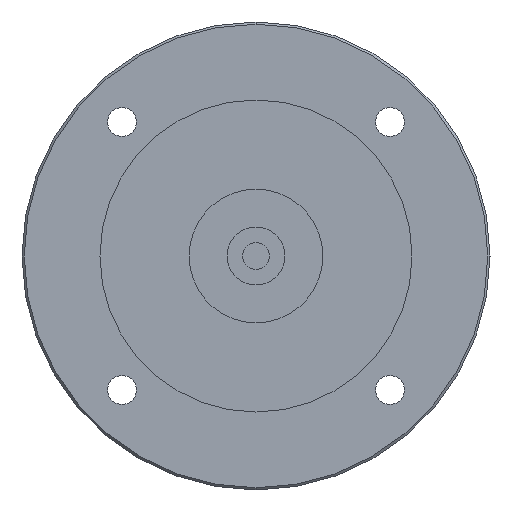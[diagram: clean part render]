
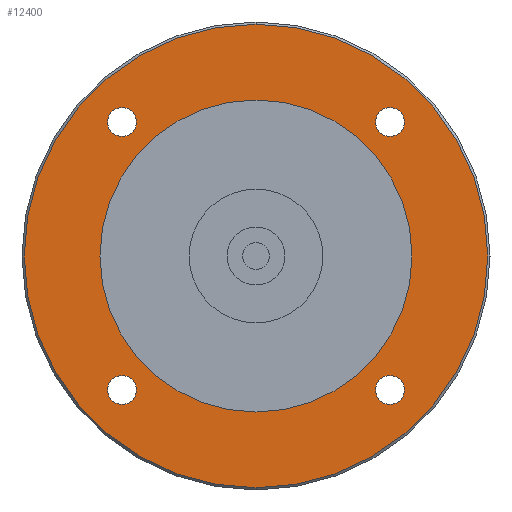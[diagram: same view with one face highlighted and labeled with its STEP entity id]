
A CAD part, left-side view. The second image highlights one B-rep face of the part: STEP entity #12400.
In plain terms, the highlighted planar face has unit normal (-1, 0, 0) as drawn and (0, 0, -1) by its records, which use the part's own axes.
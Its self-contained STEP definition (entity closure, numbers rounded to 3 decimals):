
#11100=CARTESIAN_POINT('',(0.,-35.,-35.5));
#11110=VERTEX_POINT('',#11100);
#11140=CARTESIAN_POINT('',(0.,0.,
-35.5));
#11150=DIRECTION('',(0.,0.,1.));
#11160=DIRECTION('',(1.,0.,0.));
#11170=AXIS2_PLACEMENT_3D('',#11140,#11150,#11160);
#11180=CIRCLE('',#11170,35.);
#11190=CARTESIAN_POINT('',(35.,0.,-35.5));
#11200=VERTEX_POINT('',#11190);
#11210=EDGE_CURVE('',#11110,#11200,#11180,.T.);
#11230=CARTESIAN_POINT('',(0.,35.,-35.5));
#11240=VERTEX_POINT('',#11230);
#11250=EDGE_CURVE('',#11200,#11240,#11180,.T.);
#11380=CARTESIAN_POINT('',(0.,0.,
-35.5));
#11390=DIRECTION('',(0.,0.,-1.));
#11400=DIRECTION('',(0.,-1.,0.));
#11410=AXIS2_PLACEMENT_3D('',#11380,#11390,#11400);
#11420=PLANE('',#11410);
#11430=CARTESIAN_POINT('',(0.,0.,
-35.5));
#11440=DIRECTION('',(0.,0.,-1.));
#11450=DIRECTION('',(0.,-1.,0.));
#11460=AXIS2_PLACEMENT_3D('',#11430,#11440,#11450);
#11470=CIRCLE('',#11460,52.);
#11480=CARTESIAN_POINT('',(0.,-52.,-35.5));
#11490=VERTEX_POINT('',#11480);
#11500=CARTESIAN_POINT('',(0.,52.,-35.5));
#11510=VERTEX_POINT('',#11500);
#11520=EDGE_CURVE('',#11490,#11510,#11470,.T.);
#11530=ORIENTED_EDGE('',*,*,#11520,.T.);
#11540=EDGE_CURVE('',#11510,#11490,#11470,.T.);
#11550=ORIENTED_EDGE('',*,*,#11540,.T.);
#11560=EDGE_LOOP('',(#11550,#11530));
#11570=FACE_OUTER_BOUND('',#11560,.T.);
#11580=CARTESIAN_POINT('',(30.052,-30.052,-35.5));
#11590=DIRECTION('',(0.,0.,-1.));
#11600=DIRECTION('',(1.,0.,0.));
#11610=AXIS2_PLACEMENT_3D('',#11580,#11590,#11600);
#11620=CIRCLE('',#11610,3.25);
#11630=CARTESIAN_POINT('',(33.302,-30.052,-35.5));
#11640=VERTEX_POINT('',#11630);
#11650=CARTESIAN_POINT('',(30.052,-33.302,-35.5));
#11660=VERTEX_POINT('',#11650);
#11670=EDGE_CURVE('',#11640,#11660,#11620,.T.);
#11680=ORIENTED_EDGE('',*,*,#11670,.F.);
#11690=CARTESIAN_POINT('',(30.052,-26.802,-35.5));
#11700=VERTEX_POINT('',#11690);
#11710=EDGE_CURVE('',#11660,#11700,#11620,.T.);
#11720=ORIENTED_EDGE('',*,*,#11710,.F.);
#11730=EDGE_CURVE('',#11700,#11640,#11620,.T.);
#11740=ORIENTED_EDGE('',*,*,#11730,.F.);
#11750=EDGE_LOOP('',(#11740,#11720,#11680));
#11760=FACE_BOUND('',#11750,.T.);
#11770=CARTESIAN_POINT('',(30.052,30.052,-35.5));
#11780=DIRECTION('',(0.,0.,-1.));
#11790=DIRECTION('',(1.,0.,0.));
#11800=AXIS2_PLACEMENT_3D('',#11770,#11780,#11790);
#11810=CIRCLE('',#11800,3.25);
#11820=CARTESIAN_POINT('',(33.302,30.052,-35.5));
#11830=VERTEX_POINT('',#11820);
#11840=CARTESIAN_POINT('',(30.052,26.802,-35.5));
#11850=VERTEX_POINT('',#11840);
#11860=EDGE_CURVE('',#11830,#11850,#11810,.T.);
#11870=ORIENTED_EDGE('',*,*,#11860,.F.);
#11880=CARTESIAN_POINT('',(30.052,33.302,-35.5));
#11890=VERTEX_POINT('',#11880);
#11900=EDGE_CURVE('',#11850,#11890,#11810,.T.);
#11910=ORIENTED_EDGE('',*,*,#11900,.F.);
#11920=EDGE_CURVE('',#11890,#11830,#11810,.T.);
#11930=ORIENTED_EDGE('',*,*,#11920,.F.);
#11940=EDGE_LOOP('',(#11930,#11910,#11870));
#11950=FACE_BOUND('',#11940,.T.);
#11960=CARTESIAN_POINT('',(-30.052,30.052,-35.5));
#11970=DIRECTION('',(0.,0.,-1.));
#11980=DIRECTION('',(1.,0.,0.));
#11990=AXIS2_PLACEMENT_3D('',#11960,#11970,#11980);
#12000=CIRCLE('',#11990,3.25);
#12010=CARTESIAN_POINT('',(-26.802,30.052,-35.5));
#12020=VERTEX_POINT('',#12010);
#12030=CARTESIAN_POINT('',(-30.052,26.802,-35.5));
#12040=VERTEX_POINT('',#12030);
#12050=EDGE_CURVE('',#12020,#12040,#12000,.T.);
#12060=ORIENTED_EDGE('',*,*,#12050,.F.);
#12070=CARTESIAN_POINT('',(-30.052,33.302,-35.5));
#12080=VERTEX_POINT('',#12070);
#12090=EDGE_CURVE('',#12040,#12080,#12000,.T.);
#12100=ORIENTED_EDGE('',*,*,#12090,.F.);
#12110=EDGE_CURVE('',#12080,#12020,#12000,.T.);
#12120=ORIENTED_EDGE('',*,*,#12110,.F.);
#12130=EDGE_LOOP('',(#12120,#12100,#12060));
#12140=FACE_BOUND('',#12130,.T.);
#12150=CARTESIAN_POINT('',(-30.052,-30.052,-35.5));
#12160=DIRECTION('',(0.,0.,-1.));
#12170=DIRECTION('',(1.,0.,0.));
#12180=AXIS2_PLACEMENT_3D('',#12150,#12160,#12170);
#12190=CIRCLE('',#12180,3.25);
#12200=CARTESIAN_POINT('',(-26.802,-30.052,-35.5));
#12210=VERTEX_POINT('',#12200);
#12220=CARTESIAN_POINT('',(-30.052,-33.302,-35.5));
#12230=VERTEX_POINT('',#12220);
#12240=EDGE_CURVE('',#12210,#12230,#12190,.T.);
#12250=ORIENTED_EDGE('',*,*,#12240,.F.);
#12260=CARTESIAN_POINT('',(-30.052,-26.802,-35.5));
#12270=VERTEX_POINT('',#12260);
#12280=EDGE_CURVE('',#12230,#12270,#12190,.T.);
#12290=ORIENTED_EDGE('',*,*,#12280,.F.);
#12300=EDGE_CURVE('',#12270,#12210,#12190,.T.);
#12310=ORIENTED_EDGE('',*,*,#12300,.F.);
#12320=EDGE_LOOP('',(#12310,#12290,#12250));
#12330=FACE_BOUND('',#12320,.T.);
#12340=EDGE_CURVE('',#11240,#11110,#11180,.T.);
#12350=ORIENTED_EDGE('',*,*,#12340,.T.);
#12360=ORIENTED_EDGE('',*,*,#11250,.T.);
#12370=ORIENTED_EDGE('',*,*,#11210,.T.);
#12380=EDGE_LOOP('',(#12370,#12360,#12350));
#12390=FACE_BOUND('',#12380,.T.);
#12400=ADVANCED_FACE('',(#11570,#11760,#11950,#12140,#12330,#12390),
#11420,.T.);
